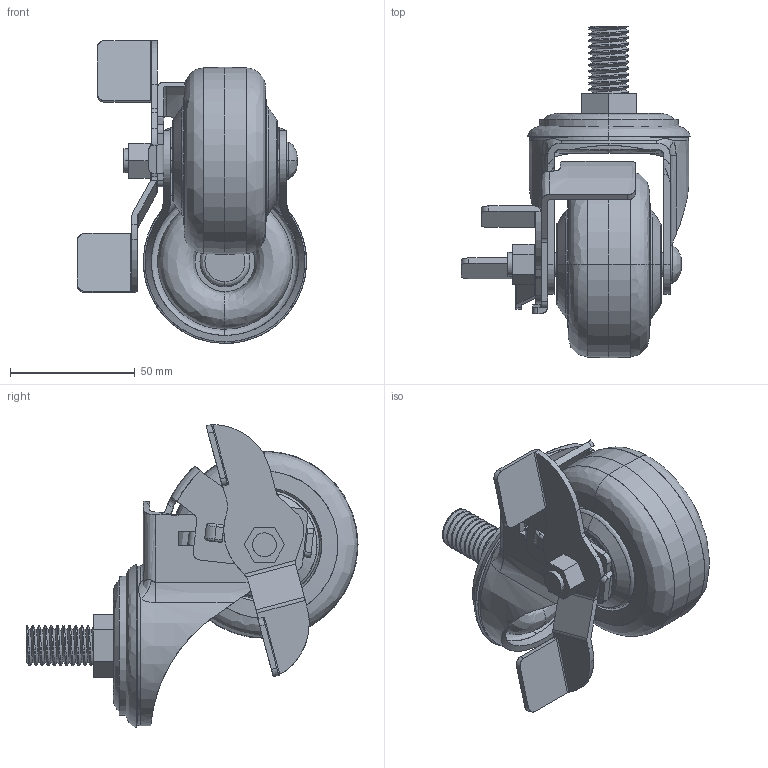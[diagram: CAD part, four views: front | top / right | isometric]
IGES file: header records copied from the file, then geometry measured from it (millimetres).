
Start section: SolidWorks IGES file using analytic representation for surfaces
Global section: file name: C:\Users\KHJ\Desktop\3D\LM5030-PUB(BRAKE).IGS; native system: SolidWorks 2012; preprocessor: SolidWorks 2012; author: KHJ; date: 121128.000727; units: millimetre
Bounding box: 91.82 x 133 x 121.37 mm (x, y, z)
Surface area: 73385.8 mm2 (no closed solid volume)
Topology: 0 solids, 0 shells, 412 faces, 6516 edges, 6514 vertices
Faces by surface type: bspline 278, revolution 134
